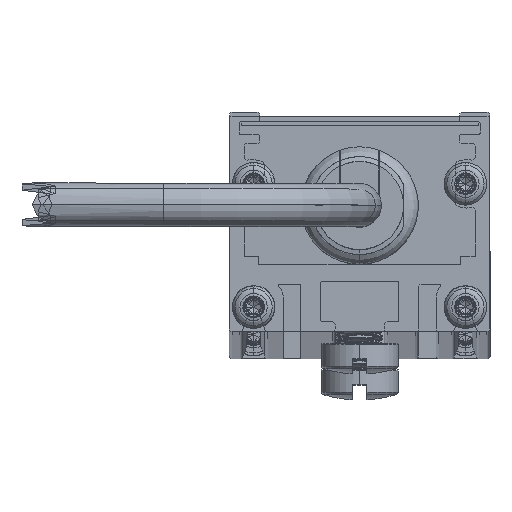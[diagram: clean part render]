
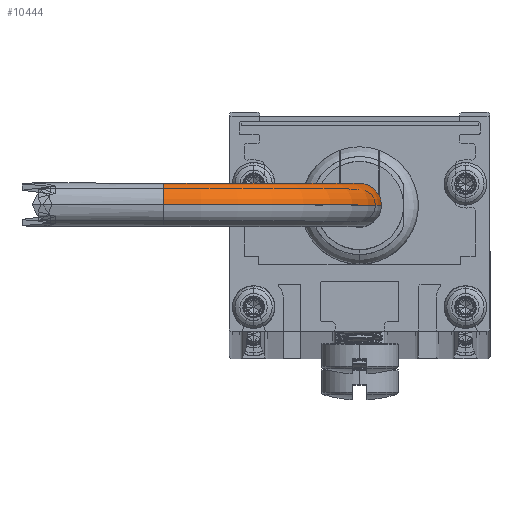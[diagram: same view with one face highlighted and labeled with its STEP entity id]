
A CAD part, top view. The second image highlights one B-rep face of the part: STEP entity #10444.
In plain terms, the highlighted toroidal (fillet/blend) face has major radius 25.4 mm and minor radius 2.845 mm.
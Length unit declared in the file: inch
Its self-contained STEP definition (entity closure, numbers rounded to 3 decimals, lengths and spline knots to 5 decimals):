
#27 = ORIENTED_EDGE ( 'NONE', *, *, #17733, .T. ) ;
#558 = CIRCLE ( 'NONE', #8316, 0.112 ) ;
#891 = EDGE_CURVE ( 'NONE', #4560, #4969, #7548, .T. ) ;
#904 = CARTESIAN_POINT ( 'NONE',  ( 1., 0., -1. ) ) ;
#1615 = TOROIDAL_SURFACE ( 'NONE', #9209, 1., 0.112 ) ;
#1697 = DIRECTION ( 'NONE',  ( 0., 0., -1. ) ) ;
#1962 = EDGE_CURVE ( 'NONE', #4560, #12681, #15441, .T. ) ;
#2200 = DIRECTION ( 'NONE',  ( 0., -1., 0. ) ) ;
#2296 = FACE_OUTER_BOUND ( 'NONE', #2685, .T. ) ;
#2629 = EDGE_CURVE ( 'NONE', #4969, #6328, #2951, .T. ) ;
#2685 = EDGE_LOOP ( 'NONE', ( #12146, #13371, #13259, #27 ) ) ;
#2907 = AXIS2_PLACEMENT_3D ( 'NONE', #11679, #7454, #4463 ) ;
#2951 = CIRCLE ( 'NONE', #14471, 1.112 ) ;
#3779 = AXIS2_PLACEMENT_3D ( 'NONE', #18281, #2200, #12333 ) ;
#4463 = DIRECTION ( 'NONE',  ( 1., 0., 0. ) ) ;
#4560 = VERTEX_POINT ( 'NONE', #18463 ) ;
#4969 = VERTEX_POINT ( 'NONE', #13450 ) ;
#6328 = VERTEX_POINT ( 'NONE', #10336 ) ;
#6436 = CARTESIAN_POINT ( 'NONE',  ( 1., 0., -2. ) ) ;
#7454 = DIRECTION ( 'NONE',  ( 0., 0., 1. ) ) ;
#7548 = CIRCLE ( 'NONE', #2907, 0.112 ) ;
#8316 = AXIS2_PLACEMENT_3D ( 'NONE', #6436, #16426, #16691 ) ;
#8949 = DIRECTION ( 'NONE',  ( 0., -1., 0. ) ) ;
#9209 = AXIS2_PLACEMENT_3D ( 'NONE', #16352, #8949, #1697 ) ;
#10336 = CARTESIAN_POINT ( 'NONE',  ( 1., 0., -2.112 ) ) ;
#10444 = ADVANCED_FACE ( 'NONE', ( #2296 ), #1615, .T. ) ;
#11679 = CARTESIAN_POINT ( 'NONE',  ( 0., 0., -1. ) ) ;
#12146 = ORIENTED_EDGE ( 'NONE', *, *, #2629, .F. ) ;
#12333 = DIRECTION ( 'NONE',  ( 1., 0., 0. ) ) ;
#12681 = VERTEX_POINT ( 'NONE', #14503 ) ;
#13259 = ORIENTED_EDGE ( 'NONE', *, *, #1962, .T. ) ;
#13371 = ORIENTED_EDGE ( 'NONE', *, *, #891, .F. ) ;
#13450 = CARTESIAN_POINT ( 'NONE',  ( -0.112, 0., -1. ) ) ;
#13845 = DIRECTION ( 'NONE',  ( 0., -1., 0. ) ) ;
#14471 = AXIS2_PLACEMENT_3D ( 'NONE', #904, #13845, #15384 ) ;
#14503 = CARTESIAN_POINT ( 'NONE',  ( 1., 0., -1.888 ) ) ;
#15384 = DIRECTION ( 'NONE',  ( 1., 0., 0. ) ) ;
#15441 = CIRCLE ( 'NONE', #3779, 0.888 ) ;
#16352 = CARTESIAN_POINT ( 'NONE',  ( 1., 0., -1. ) ) ;
#16426 = DIRECTION ( 'NONE',  ( -1., 0., 0. ) ) ;
#16691 = DIRECTION ( 'NONE',  ( 0., 0., 1. ) ) ;
#17733 = EDGE_CURVE ( 'NONE', #12681, #6328, #558, .T. ) ;
#18281 = CARTESIAN_POINT ( 'NONE',  ( 1., 0., -1. ) ) ;
#18463 = CARTESIAN_POINT ( 'NONE',  ( 0.112, 0., -1. ) ) ;
